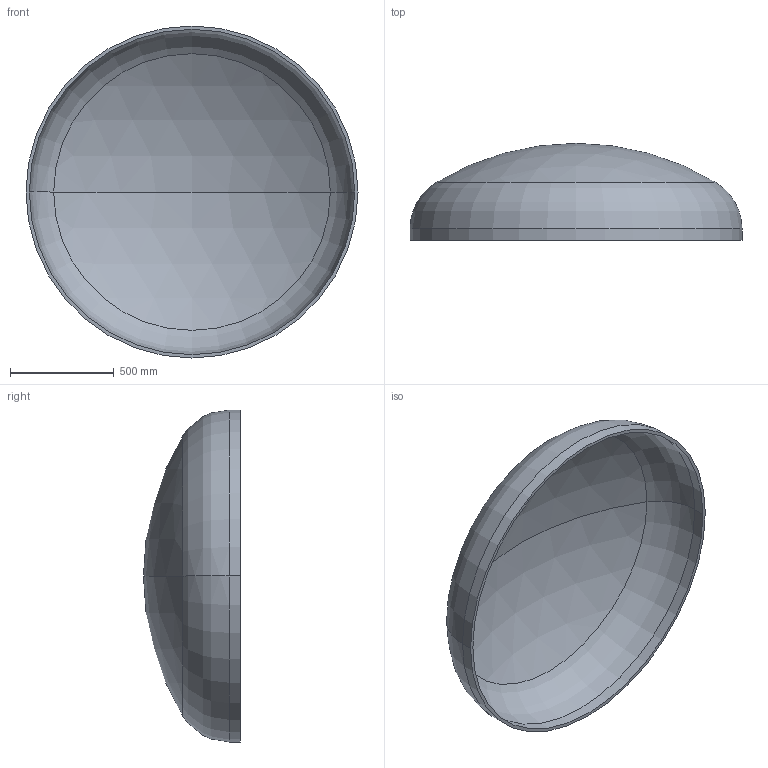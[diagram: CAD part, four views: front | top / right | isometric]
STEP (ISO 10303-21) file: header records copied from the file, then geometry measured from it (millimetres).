
FILE_DESCRIPTION (( 'STEP AP203' ), '1' );
FILE_NAME ('DIN 28013 Korbbogenform_-_Boden DIN 28013 - 1600 x 55 - I - s=16.step', '2016-07-01T11:06:49', ( '' ), ( '' ), 'SwSTEP 2.0', 'SolidWorks 2013', '' );
FILE_SCHEMA (( 'CONFIG_CONTROL_DESIGN' ));
Length unit declared in the file: millimetre
Products named in the file (1): DIN 28013 Korbbogenform_-_Boden DIN 28013 - 1600 x 55 - I - s=16
Bounding box: 1600 x 467.43 x 1600 mm (x, y, z)
Volume: 48299663.1 mm3; surface area: 6117612.4 mm2
Topology: 1 solids, 1 shells, 13 faces, 24 edges, 14 vertices
Faces by surface type: torus 4, cylinder 4, sphere 4, plane 1
Entity records: 407 total; most frequent: DIRECTION 72, CARTESIAN_POINT 52, ORIENTED_EDGE 48, AXIS2_PLACEMENT_3D 34, EDGE_CURVE 24, CIRCLE 20, VERTEX_POINT 14, EDGE_LOOP 14
